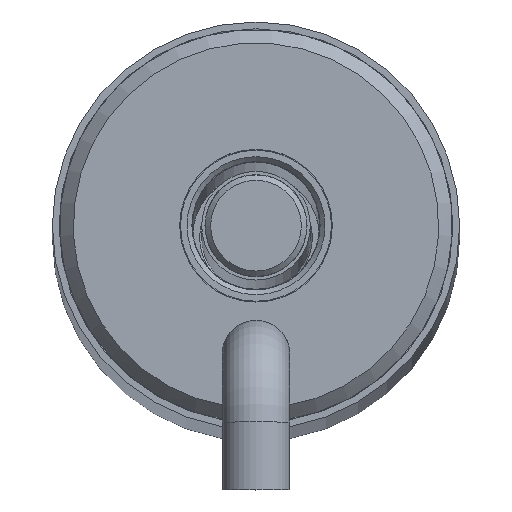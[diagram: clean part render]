
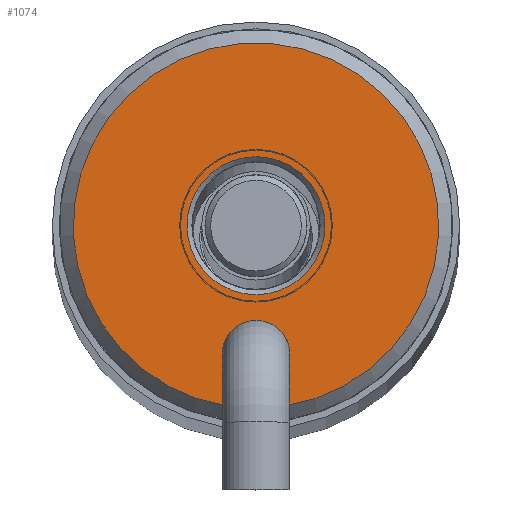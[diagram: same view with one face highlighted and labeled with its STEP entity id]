
A CAD part, top view. The second image highlights one B-rep face of the part: STEP entity #1074.
In plain terms, the highlighted planar face has unit normal (0, 0, 1).
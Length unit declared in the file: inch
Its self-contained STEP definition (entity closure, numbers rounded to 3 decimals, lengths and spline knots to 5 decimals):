
#78=FACE_BOUND('',#214,.T.);
#116=PLANE('',#1254);
#145=FACE_OUTER_BOUND('',#213,.T.);
#213=EDGE_LOOP('',(#719,#720,#721,#722,#723));
#214=EDGE_LOOP('',(#724));
#294=LINE('',#1700,#344);
#297=LINE('',#1710,#347);
#344=VECTOR('',#1401,0.3937);
#347=VECTOR('',#1406,0.3937);
#396=CIRCLE('',#1249,0.0625);
#398=CIRCLE('',#1251,0.0625);
#399=CIRCLE('',#1255,0.3365);
#400=CIRCLE('',#1256,0.127);
#448=VERTEX_POINT('',#1686);
#449=VERTEX_POINT('',#1688);
#452=VERTEX_POINT('',#1694);
#453=VERTEX_POINT('',#1699);
#456=VERTEX_POINT('',#1709);
#457=VERTEX_POINT('',#1712);
#550=EDGE_CURVE('',#449,#448,#396,.T.);
#554=EDGE_CURVE('',#448,#452,#398,.T.);
#555=EDGE_CURVE('',#453,#449,#294,.T.);
#559=EDGE_CURVE('',#452,#456,#297,.T.);
#560=EDGE_CURVE('',#453,#456,#399,.T.);
#561=EDGE_CURVE('',#457,#457,#400,.T.);
#719=ORIENTED_EDGE('',*,*,#550,.T.);
#720=ORIENTED_EDGE('',*,*,#554,.T.);
#721=ORIENTED_EDGE('',*,*,#559,.T.);
#722=ORIENTED_EDGE('',*,*,#560,.F.);
#723=ORIENTED_EDGE('',*,*,#555,.T.);
#724=ORIENTED_EDGE('',*,*,#561,.T.);
#1074=ADVANCED_FACE('',(#145,#78),#116,.T.);
#1249=AXIS2_PLACEMENT_3D('',#1689,#1389,#1390);
#1251=AXIS2_PLACEMENT_3D('',#1696,#1395,#1396);
#1254=AXIS2_PLACEMENT_3D('',#1708,#1404,#1405);
#1255=AXIS2_PLACEMENT_3D('',#1711,#1407,#1408);
#1256=AXIS2_PLACEMENT_3D('',#1713,#1409,#1410);
#1389=DIRECTION('center_axis',(0.,0.,
-1.));
#1390=DIRECTION('ref_axis',(1.,0.,0.));
#1395=DIRECTION('center_axis',(0.,0.,
-1.));
#1396=DIRECTION('ref_axis',(1.,0.,0.));
#1401=DIRECTION('',(0.,1.,0.));
#1404=DIRECTION('center_axis',(0.,0.,
1.));
#1405=DIRECTION('ref_axis',(1.,0.,0.));
#1406=DIRECTION('',(0.,-1.,0.));
#1407=DIRECTION('center_axis',(0.,0.,
-1.));
#1408=DIRECTION('ref_axis',(-1.,0.,0.));
#1409=DIRECTION('center_axis',(0.,0.,
-1.));
#1410=DIRECTION('ref_axis',(-1.,0.,0.));
#1686=CARTESIAN_POINT('',(-0.0625,-0.237,12.49));
#1688=CARTESIAN_POINT('',(-0.053,-0.27012,12.49));
#1689=CARTESIAN_POINT('Origin',(0.,-0.237,12.49));
#1694=CARTESIAN_POINT('',(0.053,-0.27012,12.49));
#1696=CARTESIAN_POINT('Origin',(0.,-0.237,12.49));
#1699=CARTESIAN_POINT('',(-0.053,-0.3323,12.49));
#1700=CARTESIAN_POINT('',(-0.053,0.04975,12.49));
#1708=CARTESIAN_POINT('Origin',(0.,0.3365,12.49));
#1709=CARTESIAN_POINT('',(0.053,-0.3323,12.49));
#1710=CARTESIAN_POINT('',(0.053,-0.01055,12.49));
#1711=CARTESIAN_POINT('Origin',(0.,0.,
12.49));
#1712=CARTESIAN_POINT('',(0.,-0.127,12.49));
#1713=CARTESIAN_POINT('Origin',(0.,0.,
12.49));
